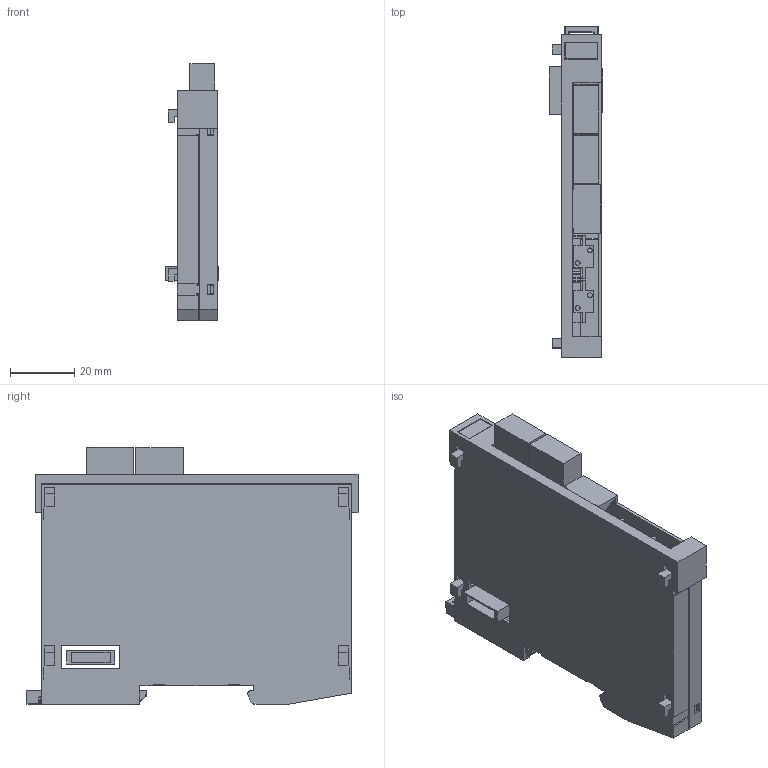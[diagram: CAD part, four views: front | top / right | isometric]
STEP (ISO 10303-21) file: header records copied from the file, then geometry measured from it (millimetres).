
FILE_DESCRIPTION (( 'STEP AP214' ), '1' );
FILE_NAME ('DM822.STEP', '2016-01-22T09:17:59', ( 'SIGMATEK GmbH & Co KG' ), ( 'SIGMATEK GmbH & Co KG' ), 'SwSTEP 2.0', 'SolidWorks 2015', '' );
FILE_SCHEMA (( 'AUTOMOTIVE_DESIGN' ));
Length unit declared in the file: millimetre
Products named in the file (14): LP_DM822; SENS-DRUCK_K_TSCDRRN015PDUCV; Dummy_4110262104 4pol.Federkraftstecker f.2reih 1952283; Dummy_4110251205 4pol.Minicombicon-Grundgehäuse RM3,5 1937512; Dummy_4080225346 Erni Stift; Dummy_4080225345 Erni Buchse; S-Dias Rasthaken 20130313; Schieber_f Suport; S-Dias Schale rechts_f Suport; S-Dias Schale links_f Suport; 4110251342_MF 10-5 MC CABUR_1854510000; DM822; Steckerabdeckung_Var 9
Assembly tree (15 placements, depth 3):
  DM822
    4110251342_MF 10-5 MC CABUR_1854510000
    S-Dias Schale links_f Suport
    S-Dias Schale rechts_f Suport
    Schieber_f Suport
    S-Dias Rasthaken 20130313
    LP_DM822
      Dummy_4080225345 Erni Buchse
      Dummy_4080225346 Erni Stift
      Dummy_4110251205 4pol.Minicombicon-Grundgehäuse RM3,5 1937512  x2
      Dummy_4110262104 4pol.Federkraftstecker f.2reih 1952283  x2
      SENS-DRUCK_K_TSCDRRN015PDUCV
      SENS-DRUCK_K_TSCDRRN015PDUCV
    Steckerabdeckung_Var 9
Bounding box: 16.8 x 103.61 x 80.15 mm (x, y, z)
Volume: 27737.7 mm3; surface area: 43744.5 mm2
Topology: 14 solids, 14 shells, 941 faces, 2723 edges, 1804 vertices
Faces by surface type: plane 687, cylinder 143, bspline 55, cone 28, torus 15, sphere 13
Entity records: 35371 total; most frequent: CARTESIAN_POINT 8126, ORIENTED_EDGE 5344, DIRECTION 4257, EDGE_CURVE 2672, LINE 1989, VECTOR 1989, VERTEX_POINT 1776, AXIS2_PLACEMENT_3D 1134
